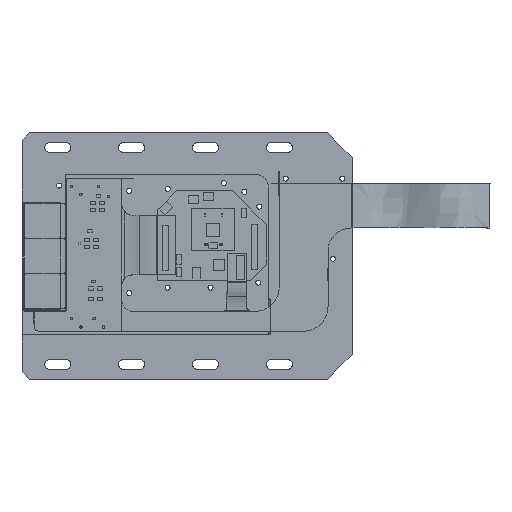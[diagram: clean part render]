
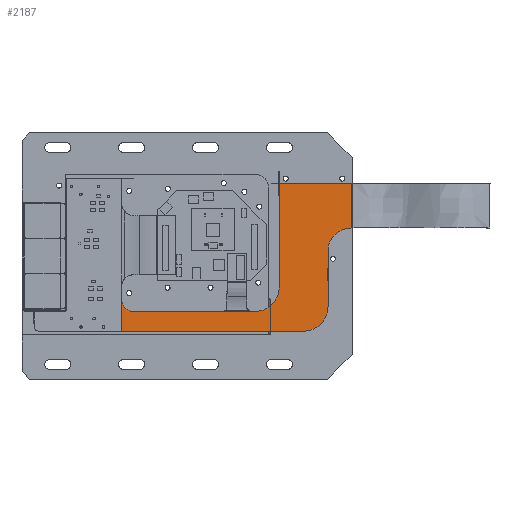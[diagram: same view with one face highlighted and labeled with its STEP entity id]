
A CAD part, top view. The second image highlights one B-rep face of the part: STEP entity #2187.
In plain terms, the highlighted planar face has unit normal (0.01, 0, 1).
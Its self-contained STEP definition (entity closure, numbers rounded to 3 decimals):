
#1934=CIRCLE('',#17861,10.);
#1935=CIRCLE('',#17862,9.911);
#1936=CIRCLE('',#17863,10.);
#1937=CIRCLE('',#17864,5.);
#2187=ADVANCED_FACE('',(#3890),#3107,.T.);
#3107=PLANE('',#17865);
#3890=FACE_OUTER_BOUND('',#4796,.T.);
#4796=EDGE_LOOP('',(#6090,#6091,#6092,#6093,#6094,#6095,#6096,#6097,#6098,
#6099,#6100,#6101,#6102));
#6090=ORIENTED_EDGE('',*,*,#11916,.T.);
#6091=ORIENTED_EDGE('',*,*,#11940,.T.);
#6092=ORIENTED_EDGE('',*,*,#11941,.T.);
#6093=ORIENTED_EDGE('',*,*,#11942,.T.);
#6094=ORIENTED_EDGE('',*,*,#11943,.T.);
#6095=ORIENTED_EDGE('',*,*,#11944,.T.);
#6096=ORIENTED_EDGE('',*,*,#11945,.T.);
#6097=ORIENTED_EDGE('',*,*,#11946,.T.);
#6098=ORIENTED_EDGE('',*,*,#11947,.T.);
#6099=ORIENTED_EDGE('',*,*,#11948,.T.);
#6100=ORIENTED_EDGE('',*,*,#11949,.T.);
#6101=ORIENTED_EDGE('',*,*,#11950,.F.);
#6102=ORIENTED_EDGE('',*,*,#11951,.F.);
#10434=VERTEX_POINT('',#23566);
#10435=VERTEX_POINT('',#23568);
#10450=VERTEX_POINT('',#23647);
#10451=VERTEX_POINT('',#23649);
#10452=VERTEX_POINT('',#23651);
#10453=VERTEX_POINT('',#23653);
#10454=VERTEX_POINT('',#23655);
#10455=VERTEX_POINT('',#23657);
#10456=VERTEX_POINT('',#23659);
#10457=VERTEX_POINT('',#23661);
#10458=VERTEX_POINT('',#23663);
#10459=VERTEX_POINT('',#23665);
#10460=VERTEX_POINT('',#23667);
#11916=EDGE_CURVE('',#10435,#10434,#14089,.T.);
#11940=EDGE_CURVE('',#10434,#10450,#1934,.T.);
#11941=EDGE_CURVE('',#10450,#10451,#14101,.T.);
#11942=EDGE_CURVE('',#10451,#10452,#1935,.T.);
#11943=EDGE_CURVE('',#10452,#10453,#14102,.T.);
#11944=EDGE_CURVE('',#10453,#10454,#14103,.T.);
#11945=EDGE_CURVE('',#10454,#10455,#14104,.T.);
#11946=EDGE_CURVE('',#10455,#10456,#1936,.T.);
#11947=EDGE_CURVE('',#10456,#10457,#14105,.T.);
#11948=EDGE_CURVE('',#10457,#10458,#14106,.T.);
#11949=EDGE_CURVE('',#10458,#10459,#14107,.T.);
#11950=EDGE_CURVE('',#10460,#10459,#1937,.T.);
#11951=EDGE_CURVE('',#10435,#10460,#14108,.T.);
#14089=LINE('',#23567,#15997);
#14101=LINE('',#23648,#16009);
#14102=LINE('',#23652,#16010);
#14103=LINE('',#23654,#16011);
#14104=LINE('',#23656,#16012);
#14105=LINE('',#23660,#16013);
#14106=LINE('',#23662,#16014);
#14107=LINE('',#23664,#16015);
#14108=LINE('',#23668,#16016);
#15997=VECTOR('',#19177,1.);
#16009=VECTOR('',#19223,1.);
#16010=VECTOR('',#19226,1.);
#16011=VECTOR('',#19227,1.);
#16012=VECTOR('',#19228,1.);
#16013=VECTOR('',#19231,1.);
#16014=VECTOR('',#19232,1.);
#16015=VECTOR('',#19233,1.);
#16016=VECTOR('',#19236,1.);
#17861=AXIS2_PLACEMENT_3D('',#23646,#19221,#19222);
#17862=AXIS2_PLACEMENT_3D('',#23650,#19224,#19225);
#17863=AXIS2_PLACEMENT_3D('',#23658,#19229,#19230);
#17864=AXIS2_PLACEMENT_3D('',#23666,#19234,#19235);
#17865=AXIS2_PLACEMENT_3D('',#23669,#19237,#19238);
#19177=DIRECTION('',(1.,0.,-0.01));
#19221=DIRECTION('',(0.01,0.,1.));
#19222=DIRECTION('',(0.,-1.,0.));
#19223=DIRECTION('',(0.,1.,0.));
#19224=DIRECTION('',(-0.01,0.,-1.));
#19225=DIRECTION('',(0.,-1.,0.));
#19226=DIRECTION('',(0.,1.,0.));
#19227=DIRECTION('',(-1.,0.,0.01));
#19228=DIRECTION('',(0.,-1.,0.));
#19229=DIRECTION('',(-0.01,0.,-1.));
#19230=DIRECTION('',(0.,1.,0.));
#19231=DIRECTION('',(-1.,0.,0.01));
#19232=DIRECTION('',(-1.,0.,0.01));
#19233=DIRECTION('',(-1.,0.,0.01));
#19234=DIRECTION('',(0.01,0.,1.));
#19235=DIRECTION('',(-0.707,-0.707,0.007));
#19236=DIRECTION('',(0.,1.,0.));
#19237=DIRECTION('',(0.01,0.,1.));
#19238=DIRECTION('',(0.,-1.,0.));
#23566=CARTESIAN_POINT('',(102.292,5.805,-1.961));
#23567=CARTESIAN_POINT('',(28.483,5.805,-1.253));
#23568=CARTESIAN_POINT('',(28.483,5.805,-1.253));
#23646=CARTESIAN_POINT('',(102.292,15.805,-1.961));
#23647=CARTESIAN_POINT('',(112.291,15.805,-2.057));
#23648=CARTESIAN_POINT('',(112.291,15.805,-2.057));
#23649=CARTESIAN_POINT('',(112.291,39.93,-2.057));
#23650=CARTESIAN_POINT('',(121.98,37.844,-2.15));
#23651=CARTESIAN_POINT('',(121.98,47.755,-2.15));
#23652=CARTESIAN_POINT('',(121.98,47.755,-2.15));
#23653=CARTESIAN_POINT('',(121.98,65.78,-2.15));
#23654=CARTESIAN_POINT('',(121.98,65.78,-2.15));
#23655=CARTESIAN_POINT('',(92.48,65.78,-1.867));
#23656=CARTESIAN_POINT('',(92.48,65.78,-1.867));
#23657=CARTESIAN_POINT('',(92.48,23.805,-1.867));
#23658=CARTESIAN_POINT('',(82.48,23.805,-1.771));
#23659=CARTESIAN_POINT('',(82.48,13.805,-1.771));
#23660=CARTESIAN_POINT('',(82.48,13.805,-1.771));
#23661=CARTESIAN_POINT('',(81.259,13.805,-1.759));
#23662=CARTESIAN_POINT('',(82.48,13.805,-1.771));
#23663=CARTESIAN_POINT('',(69.26,13.805,-1.644));
#23664=CARTESIAN_POINT('',(82.48,13.805,-1.771));
#23665=CARTESIAN_POINT('',(33.483,13.805,-1.301));
#23666=CARTESIAN_POINT('',(33.483,18.805,-1.301));
#23667=CARTESIAN_POINT('',(28.483,18.805,-1.253));
#23668=CARTESIAN_POINT('',(28.483,20.799,-1.253));
#23669=CARTESIAN_POINT('',(75.231,35.792,-1.701));
